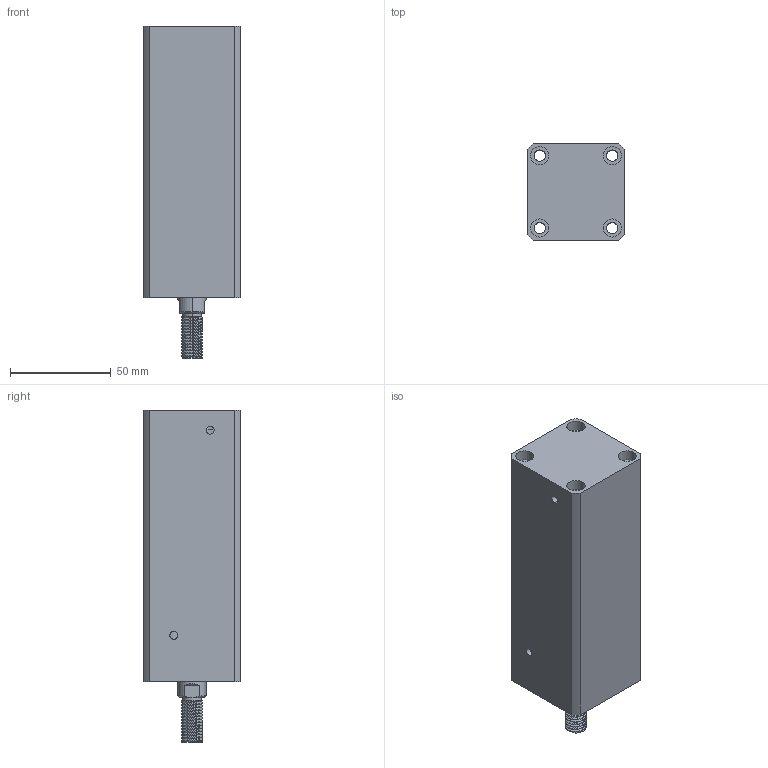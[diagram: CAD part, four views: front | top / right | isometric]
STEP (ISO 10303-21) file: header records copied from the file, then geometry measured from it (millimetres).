
FILE_DESCRIPTION (( 'STEP AP214' ), '1' );
FILE_NAME ('chtb-sdma25x90w_asm.STEP', '2018-05-22T07:44:58', ( 'Windows' ), ( 'Microsoft' ), 'SwSTEP 2.0', 'SolidWorks 2015', '' );
FILE_SCHEMA (( 'AUTOMOTIVE_DESIGN' ));
Length unit declared in the file: millimetre
Products named in the file (4): chtb-sdma25x90w_asm; CHTB-SDMA25X90WHSG; CHTB-SDMA25X90NBT; CHTB-25QG
Assembly tree (3 placements, depth 2):
  chtb-sdma25x90w_asm
    CHTB-25QG
    CHTB-SDMA25X90NBT
    CHTB-SDMA25X90WHSG
Bounding box: 48 x 48 x 165 mm (x, y, z)
Volume: 264516 mm3; surface area: 65175.8 mm2
Topology: 3 solids, 3 shells, 177 faces, 479 edges, 325 vertices
Faces by surface type: cylinder 117, plane 38, bspline 12, cone 10
Entity records: 10676 total; most frequent: CARTESIAN_POINT 6329, ORIENTED_EDGE 950, DIRECTION 772, EDGE_CURVE 475, VERTEX_POINT 325, AXIS2_PLACEMENT_3D 312, EDGE_LOOP 216, ADVANCED_FACE 177
